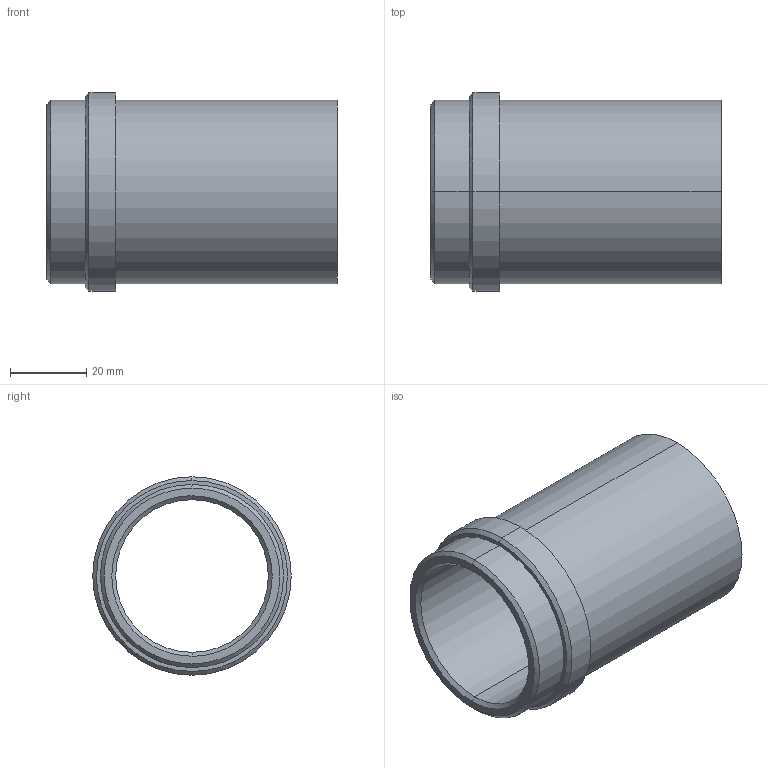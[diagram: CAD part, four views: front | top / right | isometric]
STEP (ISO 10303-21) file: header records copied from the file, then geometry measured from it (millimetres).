
FILE_DESCRIPTION(('CATIA V5 STEP Exchange'),'2;1');
FILE_NAME('C:\Users\Utente\Desktop\IO LAVORO\3D X SITO CF\X SITO\PLASTICA\358\358-40x76.stp','2021-04-09T14:55:10+00:00',('none'),('none'),'CATIA Version 5 Release 20 GA (IN-10)','CATIA V5 STEP AP203','none');
FILE_SCHEMA(('CONFIG_CONTROL_DESIGN'));
Length unit declared in the file: millimetre
Products named in the file (1): 358-40X76
Bounding box: 76 x 52 x 52 mm (x, y, z)
Volume: 44206.1 mm3; surface area: 22480.6 mm2
Topology: 1 solids, 1 shells, 20 faces, 64 edges, 48 vertices
Faces by surface type: cylinder 8, cone 6, plane 4, torus 2
Entity records: 906 total; most frequent: CARTESIAN_POINT 301, ORIENTED_EDGE 128, DIRECTION 92, EDGE_CURVE 64, AXIS2_PLACEMENT_3D 59, VERTEX_POINT 48, CIRCLE 38, EDGE_LOOP 24
